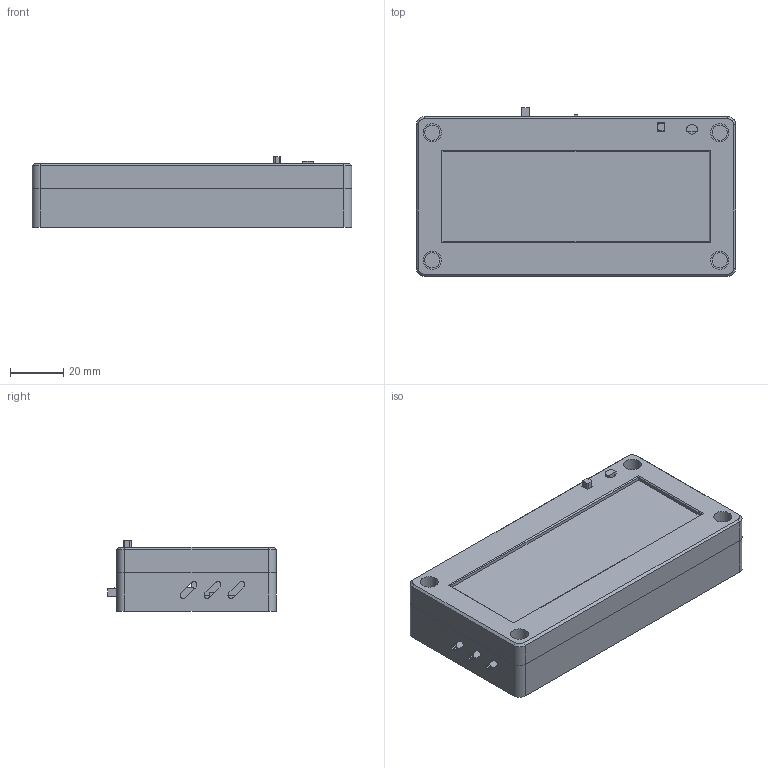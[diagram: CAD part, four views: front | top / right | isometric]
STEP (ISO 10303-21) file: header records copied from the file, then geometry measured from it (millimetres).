
FILE_DESCRIPTION(/* description */ (''),/* implementation_level */ '2;1');
FILE_NAME(/* name */ 'little-on-air-v29-assembly.step',/* time_stamp */ '2026-09-13T15:26:19-07:00',/* author */ (''),/* organization */ (''),/* preprocessor_version */ 'ST-DEVELOPER v20.2',/* originating_system */ 'Autodesk Translation Framework v15.15.0.0',/* authorisation */ '');
FILE_SCHEMA (('AUTOMOTIVE_DESIGN { 1 0 10303 214 3 1 1 }'));
Length unit declared in the file: centimetre
Products named in the file (22): (Unsaved); 01 Front optical bezel; 02 Clear acrylic; 03 Registered graphic backing; 04 Optical retainer; REF Four LEDs; REF Charger; REF SPDT power switch; REF SPDT moving lever; REF DPDT; REF DPDT moving actuator; REF XIAO; 05 Rear electronics housing; 06 Electronics retaining yoke; 07 Front guided reset button; REF Battery; REF Capacitor; REF M3 screws; REF M3 nuts; 08 Front RGB light guide; 09 Upper charger light guide; 10 Lower charger light guide
Assembly tree (21 placements, depth 2):
  (Unsaved)
    01 Front optical bezel
    02 Clear acrylic
    03 Registered graphic backing
    04 Optical retainer
    REF Four LEDs
    REF Charger
    REF SPDT power switch
    REF SPDT moving lever
    REF DPDT
    REF DPDT moving actuator
    REF XIAO
    05 Rear electronics housing
    06 Electronics retaining yoke
    07 Front guided reset button
    REF Battery
    REF Capacitor
    REF M3 screws
    REF M3 nuts
    08 Front RGB light guide
    09 Upper charger light guide
    10 Lower charger light guide
Bounding box: 120 x 63.4 x 26.5 mm (x, y, z)
Volume: 86934.1 mm3; surface area: 80354.4 mm2
Topology: 60 solids, 60 shells, 1708 faces, 4555 edges, 3030 vertices
Faces by surface type: plane 1617, cylinder 87, cone 4
Full cylindrical faces by diameter (mm): 3 x8, 3.01 x8, 3.2 x3, 3.6 x24, 5.7 x8, 6.8 x4, 8 x1
Entity records: 53028 total; most frequent: CARTESIAN_POINT 9336, ORIENTED_EDGE 9110, DIRECTION 8238, EDGE_CURVE 4555, LINE 4374, VECTOR 4374, VERTEX_POINT 3030, AXIS2_PLACEMENT_3D 1932
